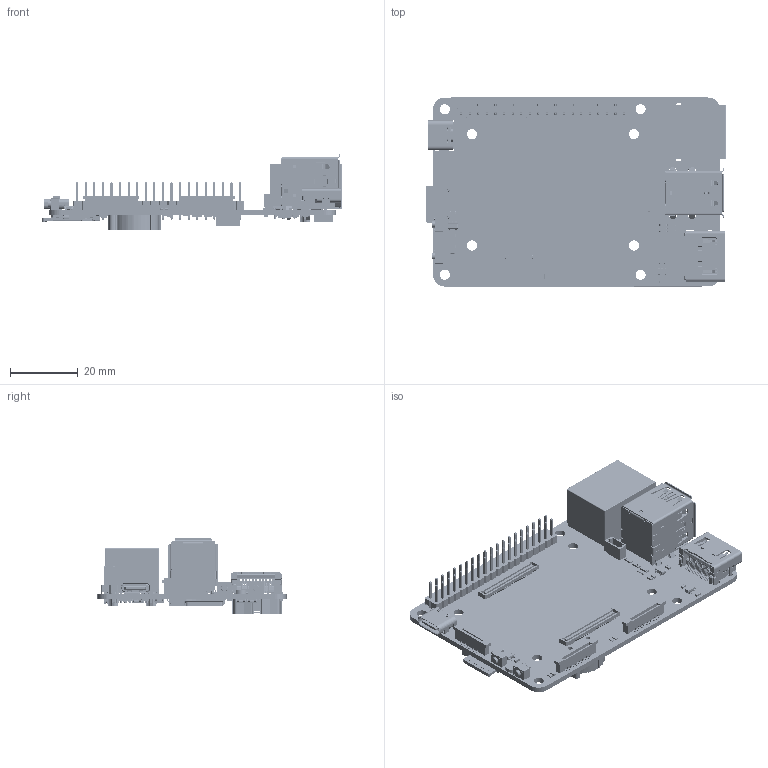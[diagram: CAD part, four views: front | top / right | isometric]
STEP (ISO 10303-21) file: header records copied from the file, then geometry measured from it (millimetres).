
FILE_DESCRIPTION((''),'2;1');
FILE_NAME('CM5-IO-BASE-A_B-PCBA_ASM','2025-02-25T17:16:07',('xiaojisheng'),(''),'CREO PARAMETRIC BY PTC INC, 2021063','CREO PARAMETRIC BY PTC INC, 2021063','');
FILE_SCHEMA(('CONFIG_CONTROL_DESIGN','SHAPE_APPEARANCE_LAYERS_GROUPS'));
Products named in the file (166): 2_54_MM_DUPONT_MALE_40PIN; TYPE-C_16PIN-9X3X7_3; RJ45_HR911105A; 2X_USB3_0_PORTS__RPI4MODELB; HDMI-19PIN-SMT; CR1220-BATTERY_HOLDER-SMT; MICRO_SD_SOCKET_PU; 6PIN-1_0MM; FPC-22PX0_5MM-DISPLAY; FPC-16PX0_5MM-DISPLAY; SWITCHER-4_5X3_3XH3_4; LED; PRT0001; TF_CARD; PITCH1MM-4PIN-SMT-V; 4R7; 100PIN-0_4MM-H1_45; BOARD; 2_1_200; _1_1_20001; 3_1_2_A; C_0603-683_AF0_ASM_ASM; C_0603-7177_AF0_ASM_ASM; C_0603_ASM; C28_ASM; _1_10001; 3_1_A; 2_100; C_0402-672_AF0_ASM_ASM; C_0402-4045_AF0_ASM_ASM; C_0402_ASM; C27_ASM; C26_ASM; _2_1_2_3_4_AF0; _7_1_2_AF0; 5_1_2_3_400; R_0603-3601_AF0_ASM_ASM; R_0603-3615_AF0_ASM_ASM; R0603_ASM; R18_ASM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
Assembly tree (272 placements, depth 8):
  CM5-IO-BASE-A_B-PCBA_ASM
    2_54_MM_DUPONT_MALE_40PIN
    TYPE-C_16PIN-9X3X7_3
    RJ45_HR911105A
    2X_USB3_0_PORTS__RPI4MODELB
    HDMI-19PIN-SMT
    CR1220-BATTERY_HOLDER-SMT
    MICRO_SD_SOCKET_PU
    6PIN-1_0MM
    FPC-22PX0_5MM-DISPLAY  x2
    FPC-16PX0_5MM-DISPLAY
    SWITCHER-4_5X3_3XH3_4  x2
    LED
    PRT0001
    TF_CARD
    PITCH1MM-4PIN-SMT-V
    4R7
    100PIN-0_4MM-H1_45  x2
    CM5-IO-BASE-A_ASM
      PCB_ASM
        BOARD
        C28_ASM
          C_0603_ASM
            C_0603-7177_AF0_ASM_ASM
              C_0603-683_AF0_ASM_ASM
                2_1_200
                _1_1_20001
                3_1_2_A
        C27_ASM
          C_0402_ASM
            C_0402-4045_AF0_ASM_ASM
              C_0402-672_AF0_ASM_ASM
                _1_10001
                3_1_A
                2_100
        C26_ASM
          C_0402_ASM
            C_0402-4045_AF0_ASM_ASM
              C_0402-672_AF0_ASM_ASM
                _1_10001
                3_1_A
                2_100
        R18_ASM
          R0603_ASM
            R_0603-3615_AF0_ASM_ASM
              R_0603-3601_AF0_ASM_ASM
                _2_1_2_3_4_AF0
                _7_1_2_AF0
                5_1_2_3_400
        R15_ASM
          R0603_ASM
            R_0603-3615_AF0_ASM_ASM
              R_0603-3601_AF0_ASM_ASM
                _2_1_2_3_4_AF0
                _7_1_2_AF0
                5_1_2_3_400
        Q2_ASM
          SOT-23
        Q1_ASM
          SOT-23
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Bounding box: 88.91 x 56.02 x 22.35 mm (x, y, z)
Volume: 15865.2 mm3; surface area: 25760.5 mm2
Topology: 362 solids, 375 shells, 28016 faces, 74455 edges, 48216 vertices
Faces by surface type: plane 20302, extrusion 3665, cylinder 3271, sphere 513, torus 144, bspline 71, cone 50
Entity records: 451809 total; most frequent: CARTESIAN_POINT 89245, ORIENTED_EDGE 58719, DIRECTION 52366, EDGE_CURVE 29374, VECTOR 24764, PRESENTATION_STYLE_ASSIGNMENT 24465, LINE 24087, STYLED_ITEM 23269
